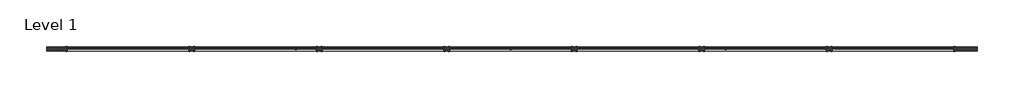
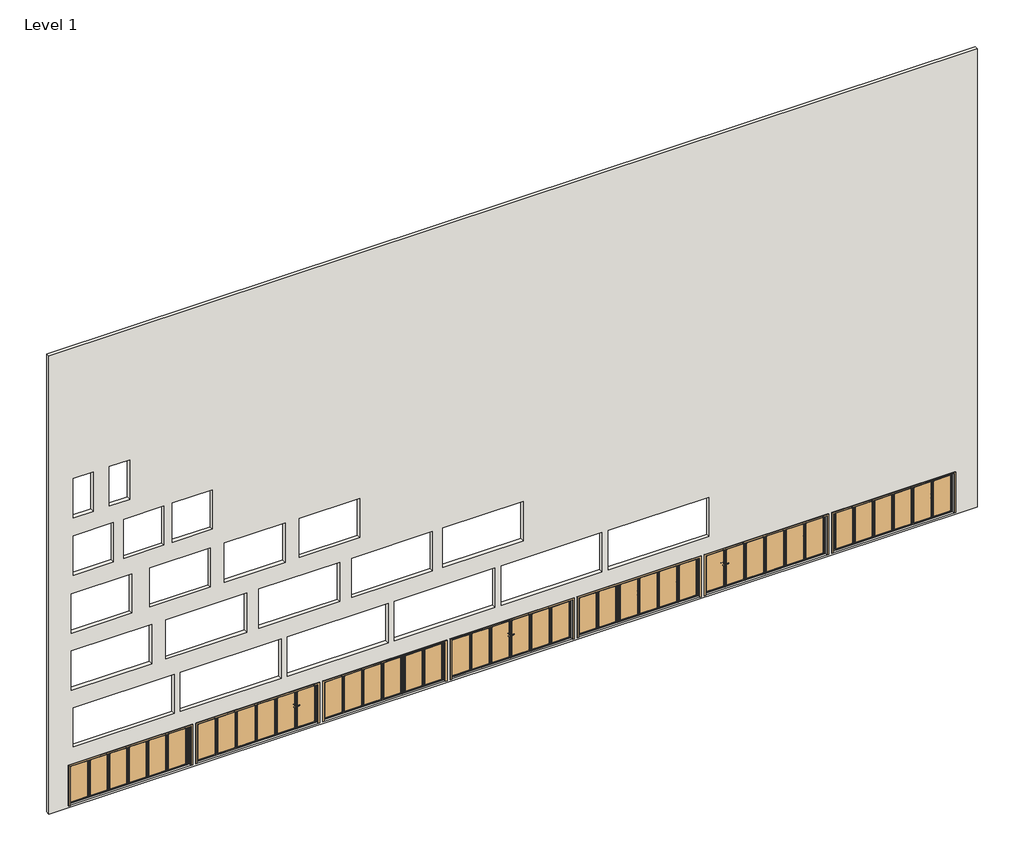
# One storey: 7 doors, 1 wall.
"""IFC4 building model written with IfcOpenShell, lengths in millimetres."""

from ifc_helpers import new_model, si_unit, frame, origin, place, context, project, spatial, polyline, outline, extrude, transform, mapped, element, save
from components import standard_f7299581, standard_0d9c882e, standard_890da7bf, standard_d7325560, standard_33c56ea0, standard_0b3dd210, standard_0c698cfe, standard_87167aca, standard_dc8b9571, standard_cc0f0e76, standard_0c0f085e, standard_a7e802e4, standard_d1462c20, standard_046189a8

model = new_model("IFC4")

# Units and contexts
model_context = context("Model", 3, world=origin())
ifc_project = project(units=[si_unit("LENGTHUNIT", "METRE", prefix="MILLI")], contexts=[model_context])

# Site, building, storey
site = spatial("IfcSite", under=ifc_project)
building = spatial("IfcBuilding", under=site)
storey = spatial("IfcBuildingStorey", under=building, Name="Level 1", Elevation=0.0)

# Doors
placement = place(None, origin())
standard_shape = standard_f7299581(model_context)
standard_2_shape = standard_0d9c882e(model_context)
element("IfcDoor", 1, ObjectType="SMARTS_Visofold1000 : Standard", at=placement, inside=storey, context=model_context, shape_type="MappedRepresentation", body=[
    mapped(standard_shape, transform((-195729.1748779, 24312.6264647, 100.0), x_axis=(1.0, 0.0, 0.0), y_axis=(0.0, 1.0, 0.0), z_axis=(0.0, 0.0, 1.0))),
    mapped(standard_2_shape, transform((-195729.1748779, 24312.6264647, 100.0), x_axis=(1.0, 0.0, 0.0), y_axis=(0.0, 1.0, 0.0), z_axis=(0.0, 0.0, 1.0))),
])
standard_3_shape = standard_890da7bf(model_context)
standard_4_shape = standard_d7325560(model_context)
element("IfcDoor", 2, ObjectType="SMARTS_Visofold1000 : Standard", at=placement, inside=storey, context=model_context, shape_type="MappedRepresentation", body=[
    mapped(standard_3_shape, transform((-157929.1748779, 24312.6264647, 100.0), x_axis=(1.0, 0.0, 0.0), y_axis=(0.0, 1.0, 0.0), z_axis=(0.0, 0.0, 1.0))),
    mapped(standard_4_shape, transform((-157929.1748779, 24312.6264647, 100.0), x_axis=(1.0, 0.0, 0.0), y_axis=(0.0, 1.0, 0.0), z_axis=(0.0, 0.0, 1.0))),
])
standard_5_shape = standard_33c56ea0(model_context)
standard_6_shape = standard_0b3dd210(model_context)
element("IfcDoor", 3, ObjectType="SMARTS_Visofold1000 : Standard", at=placement, inside=storey, context=model_context, shape_type="MappedRepresentation", body=[
    mapped(standard_5_shape, transform((-164229.1748779, 24312.6264647, 100.0), x_axis=(1.0, 0.0, 0.0), y_axis=(0.0, 1.0, 0.0), z_axis=(0.0, 0.0, 1.0))),
    mapped(standard_6_shape, transform((-164229.1748779, 24312.6264647, 100.0), x_axis=(1.0, 0.0, 0.0), y_axis=(0.0, 1.0, 0.0), z_axis=(0.0, 0.0, 1.0))),
])
standard_7_shape = standard_0c698cfe(model_context)
standard_8_shape = standard_87167aca(model_context)
element("IfcDoor", 4, ObjectType="SMARTS_Visofold1000 : Standard", at=placement, inside=storey, context=model_context, shape_type="MappedRepresentation", body=[
    mapped(standard_7_shape, transform((-170529.1748779, 24312.6264647, 100.0), x_axis=(1.0, 0.0, 0.0), y_axis=(0.0, 1.0, 0.0), z_axis=(0.0, 0.0, 1.0))),
    mapped(standard_8_shape, transform((-170529.1748779, 24312.6264647, 100.0), x_axis=(1.0, 0.0, 0.0), y_axis=(0.0, 1.0, 0.0), z_axis=(0.0, 0.0, 1.0))),
])
standard_9_shape = standard_dc8b9571(model_context)
standard_10_shape = standard_cc0f0e76(model_context)
element("IfcDoor", 5, ObjectType="SMARTS_Visofold1000 : Standard", at=placement, inside=storey, context=model_context, shape_type="MappedRepresentation", body=[
    mapped(standard_9_shape, transform((-176829.1748779, 24312.6264647, 100.0), x_axis=(1.0, 0.0, 0.0), y_axis=(0.0, 1.0, 0.0), z_axis=(0.0, 0.0, 1.0))),
    mapped(standard_10_shape, transform((-176829.1748779, 24312.6264647, 100.0), x_axis=(1.0, 0.0, 0.0), y_axis=(0.0, 1.0, 0.0), z_axis=(0.0, 0.0, 1.0))),
])
standard_11_shape = standard_0c0f085e(model_context)
standard_12_shape = standard_a7e802e4(model_context)
element("IfcDoor", 6, ObjectType="SMARTS_Visofold1000 : Standard", at=placement, inside=storey, context=model_context, shape_type="MappedRepresentation", body=[
    mapped(standard_11_shape, transform((-183129.1748779, 24312.6264647, 100.0), x_axis=(1.0, 0.0, 0.0), y_axis=(0.0, 1.0, 0.0), z_axis=(0.0, 0.0, 1.0))),
    mapped(standard_12_shape, transform((-183129.1748779, 24312.6264647, 100.0), x_axis=(1.0, 0.0, 0.0), y_axis=(0.0, 1.0, 0.0), z_axis=(0.0, 0.0, 1.0))),
])
standard_13_shape = standard_d1462c20(model_context)
standard_14_shape = standard_046189a8(model_context)
element("IfcDoor", 7, ObjectType="SMARTS_Visofold1000 : Standard", at=placement, inside=storey, context=model_context, shape_type="MappedRepresentation", body=[
    mapped(standard_13_shape, transform((-189429.1748779, 24312.6264647, 100.0), x_axis=(1.0, 0.0, 0.0), y_axis=(0.0, 1.0, 0.0), z_axis=(0.0, 0.0, 1.0))),
    mapped(standard_14_shape, transform((-189429.1748779, 24312.6264647, 100.0), x_axis=(1.0, 0.0, 0.0), y_axis=(0.0, 1.0, 0.0), z_axis=(0.0, 0.0, 1.0))),
])

# Wall
element("IfcWall", 8, ObjectType="Generic - 200mm", at=placement, inside=storey, context=model_context, shape_type="SweptSolid", body=[
    extrude(outline(polyline([(0.0, -199762.6139854), (0.0, -153762.6139854), (24000.0, -153762.6139854), (24000.0, -199762.6139854), (0.0, -199762.6139854)]), holes=[polyline([(17158.6516063, -197562.6139854), (15100.0, -197562.6139854), (15100.0, -198562.6139854), (17158.6516063, -198562.6139854), (17158.6516063, -197562.6139854)]), polyline([(17158.6516063, -195762.6139854), (15100.0, -195762.6139854), (15100.0, -196762.6139854), (17158.6516063, -196762.6139854), (17158.6516063, -195762.6139854)]), polyline([(14158.6516063, -196562.6139854), (12100.0, -196562.6139854), (12100.0, -198562.6139854), (14158.6516063, -198562.6139854), (14158.6516063, -196562.6139854)]), polyline([(14158.6516063, -194062.6139854), (12100.0, -194062.6139854), (12100.0, -196062.6139854), (14158.6516063, -196062.6139854), (14158.6516063, -194062.6139854)]), polyline([(14158.6516063, -191662.6139854), (12100.0, -191662.6139854), (12100.0, -193662.6139854), (14158.6516063, -193662.6139854), (14158.6516063, -191662.6139854)]), polyline([(8158.6516063, -194662.6139854), (6100.0, -194662.6139854), (6100.0, -198662.6139854), (8158.6516063, -198662.6139854), (8158.6516063, -194662.6139854)]), polyline([(11158.6516063, -195662.6139854), (9100.0, -195662.6139854), (9100.0, -198662.6139854), (11158.6516063, -198662.6139854), (11158.6516063, -195662.6139854)]), polyline([(11158.6516063, -191762.6139854), (9100.0, -191762.6139854), (9100.0, -194762.6139854), (11158.6516063, -194762.6139854), (11158.6516063, -191762.6139854)]), polyline([(11158.6516063, -188062.6139854), (9100.0, -188062.6139854), (9100.0, -191062.6139854), (11158.6516063, -191062.6139854), (11158.6516063, -188062.6139854)]), polyline([(11158.6516063, -184362.6139854), (9100.0, -184362.6139854), (9100.0, -187362.6139854), (11158.6516063, -187362.6139854), (11158.6516063, -184362.6139854)]), polyline([(8158.6516063, -189962.6139854), (6100.0, -189962.6139854), (6100.0, -193962.6139854), (8158.6516063, -193962.6139854), (8158.6516063, -189962.6139854)]), polyline([(8158.6516063, -185362.6139854), (6100.0, -185362.6139854), (6100.0, -189362.6139854), (8158.6516063, -189362.6139854), (8158.6516063, -185362.6139854)]), polyline([(8158.6516063, -180762.6139854), (6100.0, -180762.6139854), (6100.0, -184762.6139854), (8158.6516063, -184762.6139854), (8158.6516063, -180762.6139854)]), polyline([(8158.6516063, -176262.6139854), (6100.0, -176262.6139854), (6100.0, -180262.6139854), (8158.6516063, -180262.6139854), (8158.6516063, -176262.6139854)]), polyline([(5158.6516063, -193562.6139854), (3100.0, -193562.6139854), (3100.0, -198562.6139854), (5158.6516063, -198562.6139854), (5158.6516063, -193562.6139854)]), polyline([(5158.6516063, -188262.6139854), (3100.0, -188262.6139854), (3100.0, -193262.6139854), (5158.6516063, -193262.6139854), (5158.6516063, -188262.6139854)]), polyline([(5158.6516063, -172362.6139854), (3100.0, -172362.6139854), (3100.0, -177362.6139854), (5158.6516063, -177362.6139854), (5158.6516063, -172362.6139854)]), polyline([(5158.6516063, -177662.6139854), (3100.0, -177662.6139854), (3100.0, -182662.6139854), (5158.6516063, -182662.6139854), (5158.6516063, -177662.6139854)]), polyline([(5158.6516063, -182962.6139854), (3100.0, -182962.6139854), (3100.0, -187962.6139854), (5158.6516063, -187962.6139854), (5158.6516063, -182962.6139854)]), polyline([(5158.6516063, -167062.6139854), (3100.0, -167062.6139854), (3100.0, -172062.6139854), (5158.6516063, -172062.6139854), (5158.6516063, -167062.6139854)]), polyline([(2158.6516063, -192729.1748779), (100.0, -192729.1748779), (100.0, -198729.1748779), (2158.6516063, -198729.1748779), (2158.6516063, -192729.1748779)]), polyline([(2158.6516063, -186429.1748779), (100.0, -186429.1748779), (100.0, -192429.1748779), (2158.6516063, -192429.1748779), (2158.6516063, -186429.1748779)]), polyline([(2158.6516063, -180129.1748779), (100.0, -180129.1748779), (100.0, -186129.1748779), (2158.6516063, -186129.1748779), (2158.6516063, -180129.1748779)]), polyline([(2158.6516063, -173829.1748779), (100.0, -173829.1748779), (100.0, -179829.1748779), (2158.6516063, -179829.1748779), (2158.6516063, -173829.1748779)]), polyline([(2158.6516063, -167529.1748779), (100.0, -167529.1748779), (100.0, -173529.1748779), (2158.6516063, -173529.1748779), (2158.6516063, -167529.1748779)]), polyline([(2158.6516063, -161229.1748779), (100.0, -161229.1748779), (100.0, -167229.1748779), (2158.6516063, -167229.1748779), (2158.6516063, -161229.1748779)]), polyline([(2158.6516063, -154929.1748779), (100.0, -154929.1748779), (100.0, -160929.1748779), (2158.6516063, -160929.1748779), (2158.6516063, -154929.1748779)])]), frame((0.0, 24212.6264647, 0.0), z_axis=(0.0, 1.0, 0.0), x_axis=(0.0, 0.0, 1.0)), (0.0, 0.0, 1.0), 200.0),
])

save(model, "model.ifc")
